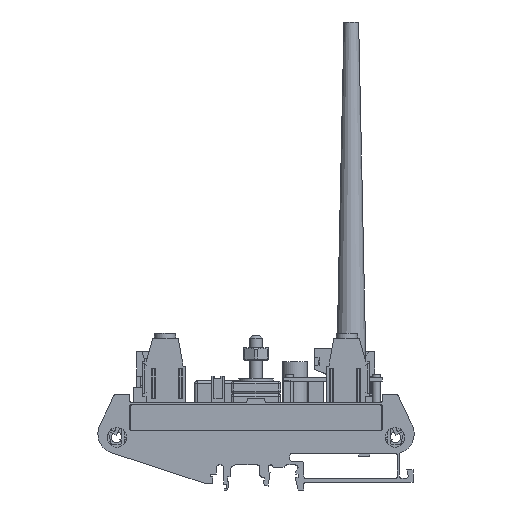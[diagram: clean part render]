
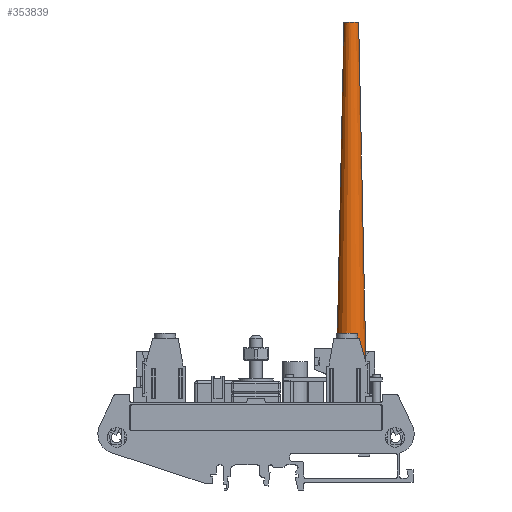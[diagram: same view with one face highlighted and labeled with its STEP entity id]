
A CAD part, left-side view. The second image highlights one B-rep face of the part: STEP entity #353839.
In plain terms, the highlighted conical face has half-angle 1.236 degrees and reference radius 6 mm.
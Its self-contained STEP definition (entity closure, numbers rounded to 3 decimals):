
#353839 = ADVANCED_FACE('',(#353840),#353853,.T.);
#353840 = FACE_BOUND('',#353841,.T.);
#353841 = EDGE_LOOP('',(#353842,#353876,#353899,#353926));
#353842 = ORIENTED_EDGE('',*,*,#353843,.F.);
#353843 = EDGE_CURVE('',#353844,#353844,#353846,.T.);
#353844 = VERTEX_POINT('',#353845);
#353845 = CARTESIAN_POINT('',(175.6,13.5,156.5));
#353846 = SURFACE_CURVE('',#353847,(#353852,#353864),.PCURVE_S1.);
#353847 = CIRCLE('',#353848,3.);
#353848 = AXIS2_PLACEMENT_3D('',#353849,#353850,#353851);
#353849 = CARTESIAN_POINT('',(172.6,13.5,156.5));
#353850 = DIRECTION('',(0.,0.,1.));
#353851 = DIRECTION('',(1.,0.,-0.));
#353852 = PCURVE('',#353853,#353858);
#353853 = CONICAL_SURFACE('',#353854,6.,0.022);
#353854 = AXIS2_PLACEMENT_3D('',#353855,#353856,#353857);
#353855 = CARTESIAN_POINT('',(172.6,13.5,17.5));
#353856 = DIRECTION('',(-0.,-0.,-1.));
#353857 = DIRECTION('',(1.,0.,0.));
#353858 = DEFINITIONAL_REPRESENTATION('',(#353859),#353863);
#353859 = LINE('',#353860,#353861);
#353860 = CARTESIAN_POINT('',(6.283,-139.));
#353861 = VECTOR('',#353862,1.);
#353862 = DIRECTION('',(-1.,0.));
#353863 = ( GEOMETRIC_REPRESENTATION_CONTEXT(2) 
PARAMETRIC_REPRESENTATION_CONTEXT() REPRESENTATION_CONTEXT('2D SPACE',''
  ) );
#353864 = PCURVE('',#353865,#353870);
#353865 = PLANE('',#353866);
#353866 = AXIS2_PLACEMENT_3D('',#353867,#353868,#353869);
#353867 = CARTESIAN_POINT('',(172.6,13.5,156.5));
#353868 = DIRECTION('',(0.,0.,1.));
#353869 = DIRECTION('',(1.,0.,-0.));
#353870 = DEFINITIONAL_REPRESENTATION('',(#353871),#353875);
#353871 = CIRCLE('',#353872,3.);
#353872 = AXIS2_PLACEMENT_2D('',#353873,#353874);
#353873 = CARTESIAN_POINT('',(0.,0.));
#353874 = DIRECTION('',(1.,0.));
#353875 = ( GEOMETRIC_REPRESENTATION_CONTEXT(2) 
PARAMETRIC_REPRESENTATION_CONTEXT() REPRESENTATION_CONTEXT('2D SPACE',''
  ) );
#353876 = ORIENTED_EDGE('',*,*,#353877,.F.);
#353877 = EDGE_CURVE('',#353878,#353844,#353880,.T.);
#353878 = VERTEX_POINT('',#353879);
#353879 = CARTESIAN_POINT('',(178.6,13.5,17.5));
#353880 = SEAM_CURVE('',#353881,(#353885,#353892),.PCURVE_S1.);
#353881 = LINE('',#353882,#353883);
#353882 = CARTESIAN_POINT('',(178.6,13.5,17.5));
#353883 = VECTOR('',#353884,1.);
#353884 = DIRECTION('',(-0.022,0.,1.));
#353885 = PCURVE('',#353853,#353886);
#353886 = DEFINITIONAL_REPRESENTATION('',(#353887),#353891);
#353887 = LINE('',#353888,#353889);
#353888 = CARTESIAN_POINT('',(6.283,0.));
#353889 = VECTOR('',#353890,1.);
#353890 = DIRECTION('',(-0.,-1.));
#353891 = ( GEOMETRIC_REPRESENTATION_CONTEXT(2) 
PARAMETRIC_REPRESENTATION_CONTEXT() REPRESENTATION_CONTEXT('2D SPACE',''
  ) );
#353892 = PCURVE('',#353853,#353893);
#353893 = DEFINITIONAL_REPRESENTATION('',(#353894),#353898);
#353894 = LINE('',#353895,#353896);
#353895 = CARTESIAN_POINT('',(0.,0.));
#353896 = VECTOR('',#353897,1.);
#353897 = DIRECTION('',(-0.,-1.));
#353898 = ( GEOMETRIC_REPRESENTATION_CONTEXT(2) 
PARAMETRIC_REPRESENTATION_CONTEXT() REPRESENTATION_CONTEXT('2D SPACE',''
  ) );
#353899 = ORIENTED_EDGE('',*,*,#353900,.T.);
#353900 = EDGE_CURVE('',#353878,#353878,#353901,.T.);
#353901 = SURFACE_CURVE('',#353902,(#353907,#353914),.PCURVE_S1.);
#353902 = CIRCLE('',#353903,6.);
#353903 = AXIS2_PLACEMENT_3D('',#353904,#353905,#353906);
#353904 = CARTESIAN_POINT('',(172.6,13.5,17.5));
#353905 = DIRECTION('',(0.,0.,1.));
#353906 = DIRECTION('',(1.,0.,-0.));
#353907 = PCURVE('',#353853,#353908);
#353908 = DEFINITIONAL_REPRESENTATION('',(#353909),#353913);
#353909 = LINE('',#353910,#353911);
#353910 = CARTESIAN_POINT('',(6.283,0.));
#353911 = VECTOR('',#353912,1.);
#353912 = DIRECTION('',(-1.,0.));
#353913 = ( GEOMETRIC_REPRESENTATION_CONTEXT(2) 
PARAMETRIC_REPRESENTATION_CONTEXT() REPRESENTATION_CONTEXT('2D SPACE',''
  ) );
#353914 = PCURVE('',#353915,#353920);
#353915 = PLANE('',#353916);
#353916 = AXIS2_PLACEMENT_3D('',#353917,#353918,#353919);
#353917 = CARTESIAN_POINT('',(172.6,13.5,17.5));
#353918 = DIRECTION('',(0.,0.,1.));
#353919 = DIRECTION('',(1.,0.,-0.));
#353920 = DEFINITIONAL_REPRESENTATION('',(#353921),#353925);
#353921 = CIRCLE('',#353922,6.);
#353922 = AXIS2_PLACEMENT_2D('',#353923,#353924);
#353923 = CARTESIAN_POINT('',(0.,0.));
#353924 = DIRECTION('',(1.,0.));
#353925 = ( GEOMETRIC_REPRESENTATION_CONTEXT(2) 
PARAMETRIC_REPRESENTATION_CONTEXT() REPRESENTATION_CONTEXT('2D SPACE',''
  ) );
#353926 = ORIENTED_EDGE('',*,*,#353877,.T.);
